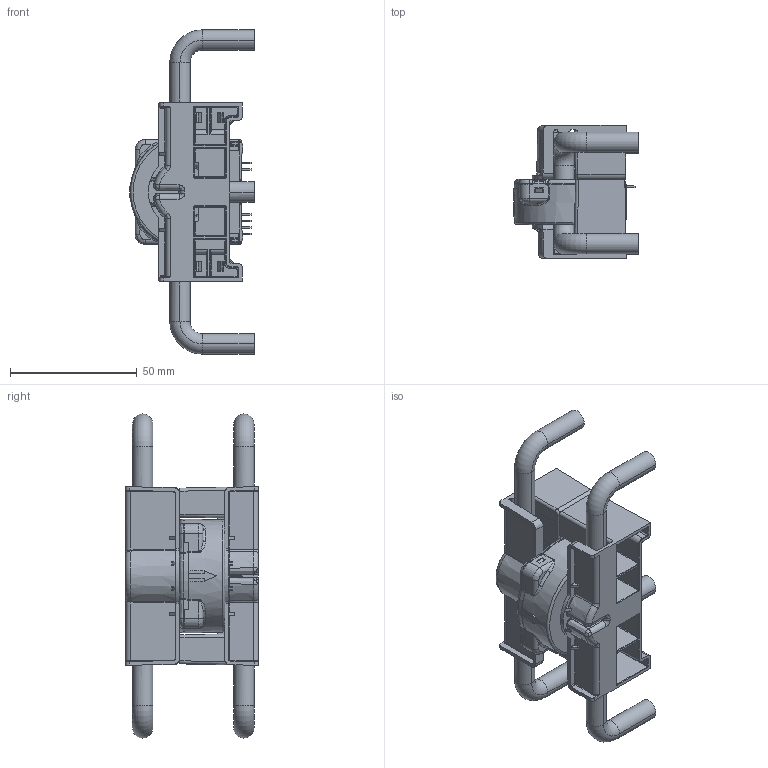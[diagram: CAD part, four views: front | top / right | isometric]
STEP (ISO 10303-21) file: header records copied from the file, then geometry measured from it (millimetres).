
FILE_DESCRIPTION(('Creo Elements/Direct Modeling STEP Export'),'2;1');
FILE_NAME('CTSR 3-TP-SP20_20201215.stp','2020-12-15T15:45:33',(''),(''),'Creo Elements/Direct Modeling STEP processor for AP214 (Solid Model)','Creo Elements/Direct Modeling 20.1 10-Mar-2018 (C) Parametric Technology GmbH','');
FILE_SCHEMA(('AUTOMOTIVE_DESIGN { 1 0 10303 214 1 1 1 1 }'));
Length unit declared in the file: millimetre
Products named in the file (2): CTSR-3-TP-SP20
Assembly tree (1 placements, depth 2):
  CTSR-3-TP-SP20
    CTSR-3-TP-SP20
Bounding box: 49.06 x 52.5 x 128 mm (x, y, z)
Volume: 73595.9 mm3; surface area: 55968.3 mm2
Topology: 1 solids, 79 shells, 5242 faces, 14620 edges, 9419 vertices
Faces by surface type: plane 3747, cylinder 783, bspline 511, cone 68, sphere 62, torus 51, extrusion 20
Entity records: 229252 total; most frequent: CARTESIAN_POINT 94664, ORIENTED_EDGE 29086, DIRECTION 22465, EDGE_CURVE 14538, VECTOR 11175, LINE 11155, VERTEX_POINT 9419, AXIS2_PLACEMENT_3D 5645
